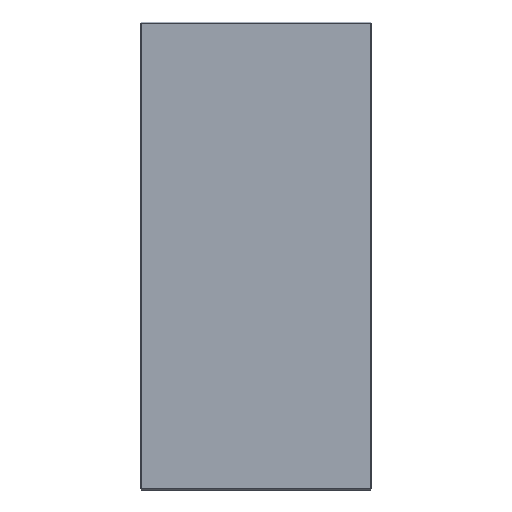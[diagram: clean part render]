
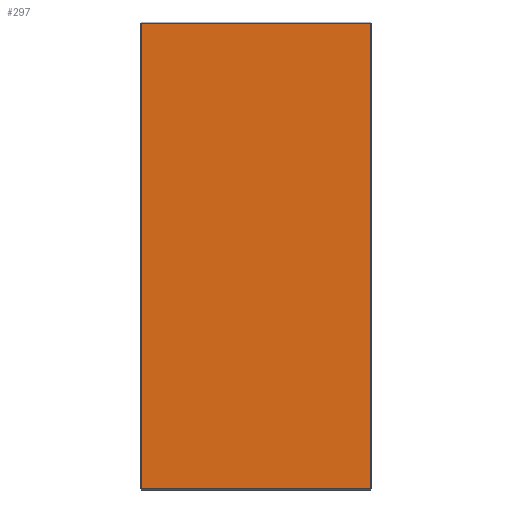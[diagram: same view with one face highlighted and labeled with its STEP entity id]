
A CAD part, front view. The second image highlights one B-rep face of the part: STEP entity #297.
In plain terms, the highlighted planar face has unit normal (0, -1, 0).
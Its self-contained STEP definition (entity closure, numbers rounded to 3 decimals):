
#5 = LINE ( 'NONE', #646, #101 ) ;
#6 = DIRECTION ( 'NONE',  ( 1., 0., 0. ) ) ;
#8 = LINE ( 'NONE', #75, #154 ) ;
#13 = LINE ( 'NONE', #511, #52 ) ;
#32 = ORIENTED_EDGE ( 'NONE', *, *, #541, .T. ) ;
#52 = VECTOR ( 'NONE', #501, 1000. ) ;
#58 = LINE ( 'NONE', #576, #78 ) ;
#75 = CARTESIAN_POINT ( 'NONE',  ( -97., 0., 0. ) ) ;
#78 = VECTOR ( 'NONE', #457, 1000. ) ;
#80 = AXIS2_PLACEMENT_3D ( 'NONE', #590, #478, #522 ) ;
#101 = VECTOR ( 'NONE', #6, 1000. ) ;
#106 = ORIENTED_EDGE ( 'NONE', *, *, #589, .T. ) ;
#138 = FACE_OUTER_BOUND ( 'NONE', #555, .T. ) ;
#154 = VECTOR ( 'NONE', #183, 1000. ) ;
#183 = DIRECTION ( 'NONE',  ( 0., 0., -1. ) ) ;
#237 = VERTEX_POINT ( 'NONE', #507 ) ;
#269 = VERTEX_POINT ( 'NONE', #338 ) ;
#286 = CARTESIAN_POINT ( 'NONE',  ( -97., 0., -197. ) ) ;
#297 = ADVANCED_FACE ( 'NONE', ( #138 ), #359, .F. ) ;
#338 = CARTESIAN_POINT ( 'NONE',  ( 97., 0., 197. ) ) ;
#359 = PLANE ( 'NONE',  #80 ) ;
#457 = DIRECTION ( 'NONE',  ( -1., 0., 0. ) ) ;
#478 = DIRECTION ( 'NONE',  ( 0., 1., 0. ) ) ;
#495 = CARTESIAN_POINT ( 'NONE',  ( -97., 0., 197. ) ) ;
#501 = DIRECTION ( 'NONE',  ( 0., 0., 1. ) ) ;
#507 = CARTESIAN_POINT ( 'NONE',  ( 97., 0., -197. ) ) ;
#511 = CARTESIAN_POINT ( 'NONE',  ( 97., 0., 0. ) ) ;
#522 = DIRECTION ( 'NONE',  ( 0., 0., 1. ) ) ;
#526 = ORIENTED_EDGE ( 'NONE', *, *, #557, .T. ) ;
#541 = EDGE_CURVE ( 'NONE', #635, #237, #5, .T. ) ;
#555 = EDGE_LOOP ( 'NONE', ( #586, #106, #526, #32 ) ) ;
#557 = EDGE_CURVE ( 'NONE', #615, #635, #8, .T. ) ;
#576 = CARTESIAN_POINT ( 'NONE',  ( 0., 0., 197. ) ) ;
#586 = ORIENTED_EDGE ( 'NONE', *, *, #607, .T. ) ;
#589 = EDGE_CURVE ( 'NONE', #269, #615, #58, .T. ) ;
#590 = CARTESIAN_POINT ( 'NONE',  ( 0., 0., 0. ) ) ;
#607 = EDGE_CURVE ( 'NONE', #237, #269, #13, .T. ) ;
#615 = VERTEX_POINT ( 'NONE', #495 ) ;
#635 = VERTEX_POINT ( 'NONE', #286 ) ;
#646 = CARTESIAN_POINT ( 'NONE',  ( 0., 0., -197. ) ) ;
